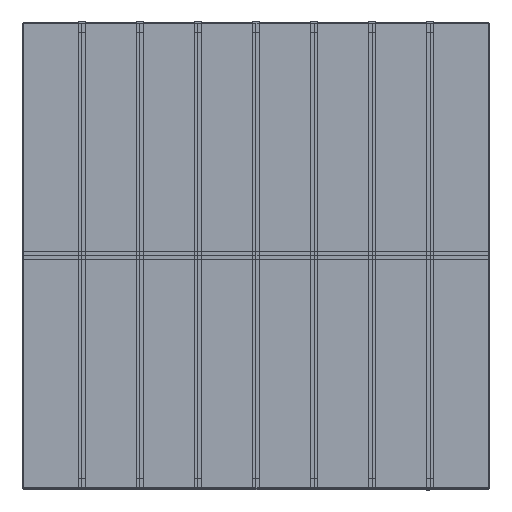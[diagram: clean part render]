
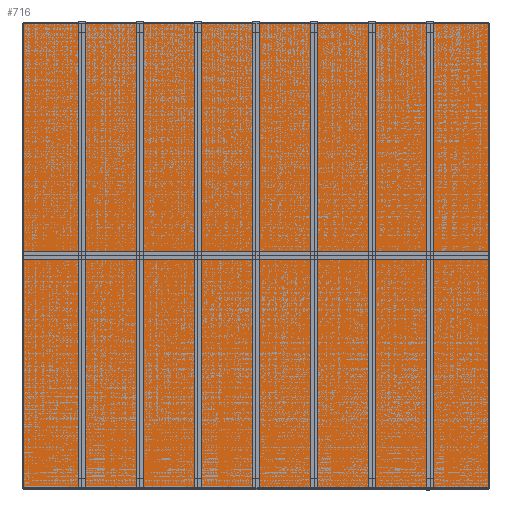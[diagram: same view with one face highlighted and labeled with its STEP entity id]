
A CAD part, top view. The second image highlights one B-rep face of the part: STEP entity #716.
In plain terms, the highlighted planar face has unit normal (0, 0, 1).
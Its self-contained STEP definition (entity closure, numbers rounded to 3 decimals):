
#716=ADVANCED_FACE('',(#1714),#13066,.T.);
#1714=FACE_OUTER_BOUND('',#2712,.T.);
#2712=EDGE_LOOP('',(#4827,#4828,#4829,#4830));
#4827=ORIENTED_EDGE('',*,*,#8079,.T.);
#4828=ORIENTED_EDGE('',*,*,#8080,.T.);
#4829=ORIENTED_EDGE('',*,*,#8081,.T.);
#4830=ORIENTED_EDGE('',*,*,#8082,.T.);
#8079=EDGE_CURVE('',#11848,#11847,#10083,.T.);
#8080=EDGE_CURVE('',#11847,#11849,#10084,.T.);
#8081=EDGE_CURVE('',#11849,#11850,#10085,.T.);
#8082=EDGE_CURVE('',#11850,#11848,#10086,.T.);
#10083=B_SPLINE_CURVE_WITH_KNOTS('',1,(#18144,#18145),.UNSPECIFIED.,.F.,
 .F.,(2,2),(0.,320.),.UNSPECIFIED.);
#10084=B_SPLINE_CURVE_WITH_KNOTS('',1,(#18146,#18147),.UNSPECIFIED.,.F.,
 .F.,(2,2),(320.,640.),.UNSPECIFIED.);
#10085=B_SPLINE_CURVE_WITH_KNOTS('',1,(#18148,#18149),.UNSPECIFIED.,.F.,
 .F.,(2,2),(640.,960.),.UNSPECIFIED.);
#10086=B_SPLINE_CURVE_WITH_KNOTS('',1,(#18150,#18151),.UNSPECIFIED.,.F.,
 .F.,(2,2),(960.,1280.),.UNSPECIFIED.);
#11847=VERTEX_POINT('',#18120);
#11848=VERTEX_POINT('',#18121);
#11849=VERTEX_POINT('',#18122);
#11850=VERTEX_POINT('',#18123);
#13066=PLANE('',#14152);
#14152=AXIS2_PLACEMENT_3D('',#18109,#15154,$);
#15154=DIRECTION('',(0.,0.,1.));
#18109=CARTESIAN_POINT('',(0.,0.,419.8));
#18120=CARTESIAN_POINT('',(320.,0.,419.8));
#18121=CARTESIAN_POINT('',(0.,0.,419.8));
#18122=CARTESIAN_POINT('',(320.,320.,419.8));
#18123=CARTESIAN_POINT('',(0.,320.,419.8));
#18144=CARTESIAN_POINT('',(0.,0.,419.8));
#18145=CARTESIAN_POINT('',(320.,0.,419.8));
#18146=CARTESIAN_POINT('',(320.,0.,419.8));
#18147=CARTESIAN_POINT('',(320.,320.,419.8));
#18148=CARTESIAN_POINT('',(320.,320.,419.8));
#18149=CARTESIAN_POINT('',(0.,320.,419.8));
#18150=CARTESIAN_POINT('',(0.,320.,419.8));
#18151=CARTESIAN_POINT('',(0.,0.,419.8));
